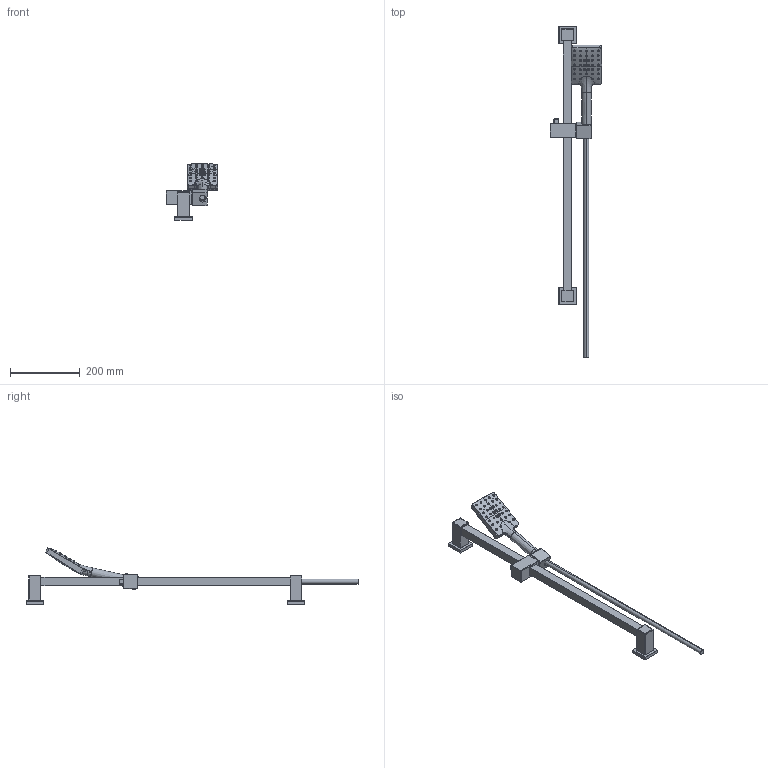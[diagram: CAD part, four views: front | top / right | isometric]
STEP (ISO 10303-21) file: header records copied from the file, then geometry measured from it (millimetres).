
FILE_DESCRIPTION (( 'STEP AP203' ), '1' );
FILE_NAME ('DGL-2575-83P-3D.STEP', '2023-11-09T21:32:09', ( '' ), ( '' ), 'SwSTEP 2.0', 'SolidWorks 2022', '' );
FILE_SCHEMA (( 'CONFIG_CONTROL_DESIGN' ));
Products named in the file (1): DGL-2575-83P-3D
Bounding box: 147.57 x 953 x 160.96 mm (x, y, z)
Volume: 1076867.8 mm3; surface area: 320259.2 mm2
Topology: 17 solids, 17 shells, 4688 faces, 12317 edges, 7805 vertices
Faces by surface type: plane 2530, bspline 805, cone 578, cylinder 506, torus 185, sphere 84
Entity records: 249465 total; most frequent: CARTESIAN_POINT 151997, ORIENTED_EDGE 24558, DIRECTION 13425, EDGE_CURVE 12279, VERTEX_POINT 7805, B_SPLINE_CURVE_WITH_KNOTS 7531, AXIS2_PLACEMENT_3D 5178, EDGE_LOOP 5114
